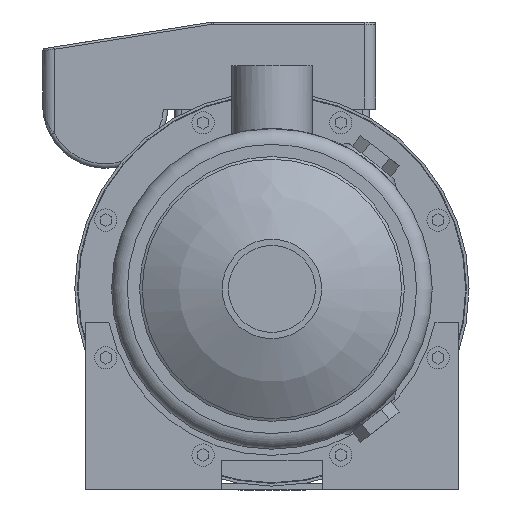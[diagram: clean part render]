
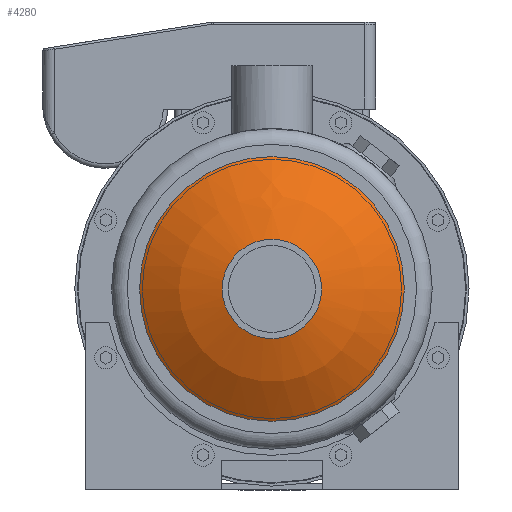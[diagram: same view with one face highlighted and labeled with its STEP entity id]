
A CAD part, left-side view. The second image highlights one B-rep face of the part: STEP entity #4280.
In plain terms, the highlighted spherical face has radius 100 mm.
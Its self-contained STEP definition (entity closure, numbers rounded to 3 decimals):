
#59=SPHERICAL_SURFACE('',#5681,100.);
#969=ORIENTED_EDGE('',*,*,#2140,.T.);
#970=ORIENTED_EDGE('',*,*,#2139,.F.);
#2139=EDGE_CURVE('',#2729,#2729,#3131,.T.);
#2140=EDGE_CURVE('',#2730,#2730,#3132,.T.);
#2729=VERTEX_POINT('',#7606);
#2730=VERTEX_POINT('',#7609);
#3131=CIRCLE('',#5680,22.25);
#3132=CIRCLE('',#5682,59.25);
#3336=EDGE_LOOP('',(#969));
#3337=EDGE_LOOP('',(#970));
#3731=FACE_BOUND('',#3336,.T.);
#3732=FACE_BOUND('',#3337,.T.);
#4280=ADVANCED_FACE('',(#3731,#3732),#59,.T.);
#5680=AXIS2_PLACEMENT_3D('',#7605,#6209,#6210);
#5681=AXIS2_PLACEMENT_3D('',#7607,#6211,#6212);
#5682=AXIS2_PLACEMENT_3D('',#7608,#6213,#6214);
#6209=DIRECTION('',(-1.,0.,0.));
#6210=DIRECTION('',(0.,0.,1.));
#6211=DIRECTION('',(-1.,0.,0.));
#6212=DIRECTION('',(0.,0.,1.));
#6213=DIRECTION('',(-1.,0.,0.));
#6214=DIRECTION('',(0.,0.,1.));
#7605=CARTESIAN_POINT('',(-115.293,0.,0.));
#7606=CARTESIAN_POINT('',(-115.293,0.,22.25));
#7607=CARTESIAN_POINT('',(-17.8,0.,0.));
#7608=CARTESIAN_POINT('',(-98.357,0.,0.));
#7609=CARTESIAN_POINT('',(-98.357,0.,59.25));
